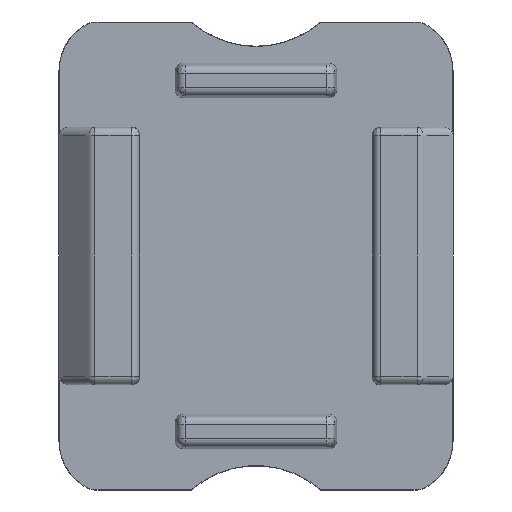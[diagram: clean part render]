
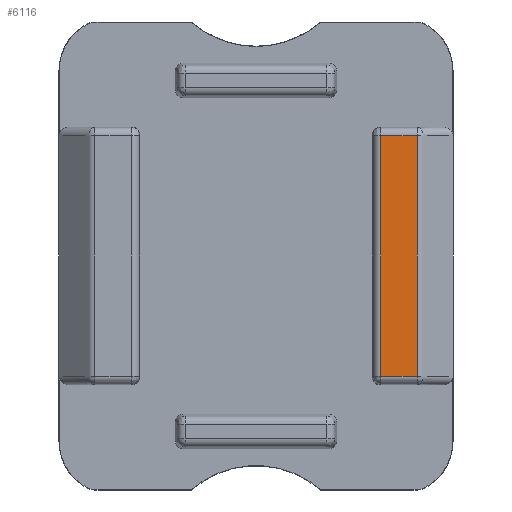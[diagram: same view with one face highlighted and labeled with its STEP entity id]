
A CAD part, front view. The second image highlights one B-rep face of the part: STEP entity #6116.
In plain terms, the highlighted planar face has unit normal (0, -1, 0).
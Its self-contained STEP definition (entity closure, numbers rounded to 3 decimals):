
#1912 = CYLINDRICAL_SURFACE('',#1913,0.5);
#1913 = AXIS2_PLACEMENT_3D('',#1914,#1915,#1916);
#1914 = CARTESIAN_POINT('',(10.001,2.1,8.));
#1915 = DIRECTION('',(0.,0.,-1.));
#1916 = DIRECTION('',(-1.,0.,0.));
#3254 = CYLINDRICAL_SURFACE('',#3255,0.5);
#3255 = AXIS2_PLACEMENT_3D('',#3256,#3257,#3258);
#3256 = CARTESIAN_POINT('',(7.735,2.1,8.));
#3257 = DIRECTION('',(0.,0.,1.));
#3258 = DIRECTION('',(1.,0.,-0.));
#3308 = CYLINDRICAL_SURFACE('',#3309,0.5);
#3309 = AXIS2_PLACEMENT_3D('',#3310,#3311,#3312);
#3310 = CARTESIAN_POINT('',(7.209,2.1,7.474));
#3311 = DIRECTION('',(-1.,0.,0.));
#3312 = DIRECTION('',(0.,-1.,0.));
#3612 = CYLINDRICAL_SURFACE('',#3613,0.5);
#3613 = AXIS2_PLACEMENT_3D('',#3614,#3615,#3616);
#3614 = CARTESIAN_POINT('',(7.209,2.1,-7.474));
#3615 = DIRECTION('',(-1.,0.,0.));
#3616 = DIRECTION('',(0.,-1.,0.));
#3738 = VERTEX_POINT('',#3739);
#3739 = CARTESIAN_POINT('',(10.001,1.6,7.474));
#3783 = EDGE_CURVE('',#3738,#3784,#3786,.T.);
#3784 = VERTEX_POINT('',#3785);
#3785 = CARTESIAN_POINT('',(10.001,1.6,-7.474));
#3786 = SURFACE_CURVE('',#3787,(#3791,#3798),.PCURVE_S1.);
#3787 = LINE('',#3788,#3789);
#3788 = CARTESIAN_POINT('',(10.001,1.6,8.));
#3789 = VECTOR('',#3790,1.);
#3790 = DIRECTION('',(0.,0.,-1.));
#3791 = PCURVE('',#1912,#3792);
#3792 = DEFINITIONAL_REPRESENTATION('',(#3793),#3797);
#3793 = LINE('',#3794,#3795);
#3794 = CARTESIAN_POINT('',(4.712,0.));
#3795 = VECTOR('',#3796,1.);
#3796 = DIRECTION('',(0.,1.));
#3797 = ( GEOMETRIC_REPRESENTATION_CONTEXT(2) 
PARAMETRIC_REPRESENTATION_CONTEXT() REPRESENTATION_CONTEXT('2D SPACE',''
  ) );
#3798 = PCURVE('',#3799,#3804);
#3799 = PLANE('',#3800);
#3800 = AXIS2_PLACEMENT_3D('',#3801,#3802,#3803);
#3801 = CARTESIAN_POINT('',(7.209,1.6,8.));
#3802 = DIRECTION('',(0.,1.,0.));
#3803 = DIRECTION('',(-1.,0.,0.));
#3804 = DEFINITIONAL_REPRESENTATION('',(#3805),#3809);
#3805 = LINE('',#3806,#3807);
#3806 = CARTESIAN_POINT('',(-2.793,0.));
#3807 = VECTOR('',#3808,1.);
#3808 = DIRECTION('',(-0.,-1.));
#3809 = ( GEOMETRIC_REPRESENTATION_CONTEXT(2) 
PARAMETRIC_REPRESENTATION_CONTEXT() REPRESENTATION_CONTEXT('2D SPACE',''
  ) );
#5295 = VERTEX_POINT('',#5296);
#5296 = CARTESIAN_POINT('',(7.735,1.6,-7.474));
#5340 = EDGE_CURVE('',#5295,#5341,#5343,.T.);
#5341 = VERTEX_POINT('',#5342);
#5342 = CARTESIAN_POINT('',(7.735,1.6,7.474));
#5343 = SURFACE_CURVE('',#5344,(#5348,#5355),.PCURVE_S1.);
#5344 = LINE('',#5345,#5346);
#5345 = CARTESIAN_POINT('',(7.735,1.6,8.));
#5346 = VECTOR('',#5347,1.);
#5347 = DIRECTION('',(0.,0.,1.));
#5348 = PCURVE('',#3254,#5349);
#5349 = DEFINITIONAL_REPRESENTATION('',(#5350),#5354);
#5350 = LINE('',#5351,#5352);
#5351 = CARTESIAN_POINT('',(4.712,0.));
#5352 = VECTOR('',#5353,1.);
#5353 = DIRECTION('',(0.,1.));
#5354 = ( GEOMETRIC_REPRESENTATION_CONTEXT(2) 
PARAMETRIC_REPRESENTATION_CONTEXT() REPRESENTATION_CONTEXT('2D SPACE',''
  ) );
#5355 = PCURVE('',#3799,#5356);
#5356 = DEFINITIONAL_REPRESENTATION('',(#5357),#5361);
#5357 = LINE('',#5358,#5359);
#5358 = CARTESIAN_POINT('',(-0.526,0.));
#5359 = VECTOR('',#5360,1.);
#5360 = DIRECTION('',(0.,1.));
#5361 = ( GEOMETRIC_REPRESENTATION_CONTEXT(2) 
PARAMETRIC_REPRESENTATION_CONTEXT() REPRESENTATION_CONTEXT('2D SPACE',''
  ) );
#5455 = EDGE_CURVE('',#5341,#3738,#5456,.T.);
#5456 = SURFACE_CURVE('',#5457,(#5461,#5468),.PCURVE_S1.);
#5457 = LINE('',#5458,#5459);
#5458 = CARTESIAN_POINT('',(7.209,1.6,7.474));
#5459 = VECTOR('',#5460,1.);
#5460 = DIRECTION('',(1.,0.,0.));
#5461 = PCURVE('',#3308,#5462);
#5462 = DEFINITIONAL_REPRESENTATION('',(#5463),#5467);
#5463 = LINE('',#5464,#5465);
#5464 = CARTESIAN_POINT('',(0.,0.));
#5465 = VECTOR('',#5466,1.);
#5466 = DIRECTION('',(0.,-1.));
#5467 = ( GEOMETRIC_REPRESENTATION_CONTEXT(2) 
PARAMETRIC_REPRESENTATION_CONTEXT() REPRESENTATION_CONTEXT('2D SPACE',''
  ) );
#5468 = PCURVE('',#3799,#5469);
#5469 = DEFINITIONAL_REPRESENTATION('',(#5470),#5474);
#5470 = LINE('',#5471,#5472);
#5471 = CARTESIAN_POINT('',(0.,-0.526));
#5472 = VECTOR('',#5473,1.);
#5473 = DIRECTION('',(-1.,0.));
#5474 = ( GEOMETRIC_REPRESENTATION_CONTEXT(2) 
PARAMETRIC_REPRESENTATION_CONTEXT() REPRESENTATION_CONTEXT('2D SPACE',''
  ) );
#6090 = EDGE_CURVE('',#3784,#5295,#6091,.T.);
#6091 = SURFACE_CURVE('',#6092,(#6096,#6103),.PCURVE_S1.);
#6092 = LINE('',#6093,#6094);
#6093 = CARTESIAN_POINT('',(7.209,1.6,-7.474));
#6094 = VECTOR('',#6095,1.);
#6095 = DIRECTION('',(-1.,0.,0.));
#6096 = PCURVE('',#3612,#6097);
#6097 = DEFINITIONAL_REPRESENTATION('',(#6098),#6102);
#6098 = LINE('',#6099,#6100);
#6099 = CARTESIAN_POINT('',(6.283,0.));
#6100 = VECTOR('',#6101,1.);
#6101 = DIRECTION('',(0.,1.));
#6102 = ( GEOMETRIC_REPRESENTATION_CONTEXT(2) 
PARAMETRIC_REPRESENTATION_CONTEXT() REPRESENTATION_CONTEXT('2D SPACE',''
  ) );
#6103 = PCURVE('',#3799,#6104);
#6104 = DEFINITIONAL_REPRESENTATION('',(#6105),#6109);
#6105 = LINE('',#6106,#6107);
#6106 = CARTESIAN_POINT('',(0.,-15.474));
#6107 = VECTOR('',#6108,1.);
#6108 = DIRECTION('',(1.,0.));
#6109 = ( GEOMETRIC_REPRESENTATION_CONTEXT(2) 
PARAMETRIC_REPRESENTATION_CONTEXT() REPRESENTATION_CONTEXT('2D SPACE',''
  ) );
#6116 = ADVANCED_FACE('',(#6117),#3799,.F.);
#6117 = FACE_BOUND('',#6118,.T.);
#6118 = EDGE_LOOP('',(#6119,#6120,#6121,#6122));
#6119 = ORIENTED_EDGE('',*,*,#5340,.F.);
#6120 = ORIENTED_EDGE('',*,*,#6090,.F.);
#6121 = ORIENTED_EDGE('',*,*,#3783,.F.);
#6122 = ORIENTED_EDGE('',*,*,#5455,.F.);
